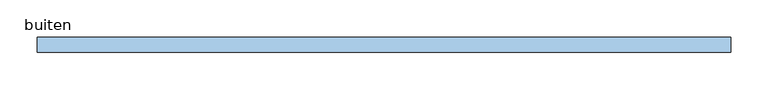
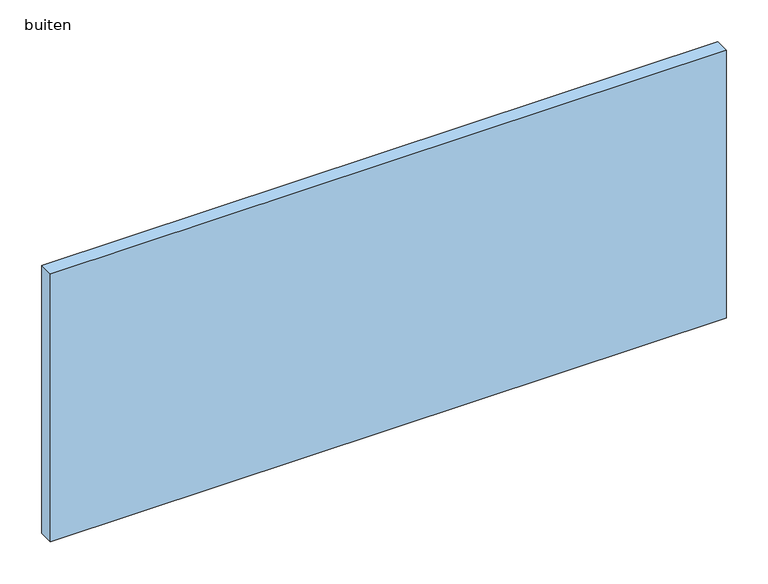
"""IFC4 building model written with IfcOpenShell, lengths in millimetres: window geometry, RBS_3-_WI_pui_glas_SH : buiten."""

from ifc_helpers import new_model, si_unit, origin, origin_with_axes, place, context, project, spatial, polyline, outline, extrude, source, transform, mapped, element, save


def buiten_5ce3c921(model_context):
    return source(origin(), model_context, "Body", "SweptSolid", [
        extrude(outline(polyline([(465.0, -10.0), (-465.0, -10.0), (-465.0, 10.0), (465.0, 10.0), (465.0, -10.0)])), origin_with_axes(), (0.0, 0.0, 1.0), 390.0),
    ])


if __name__ == "__main__":
    model = new_model("IFC4")
    model_context = context("Model", 3, world=origin())
    ifc_project = project(units=[si_unit("LENGTHUNIT", "METRE", prefix="MILLI")], contexts=[model_context])
    site = spatial("IfcSite", under=ifc_project)
    building = spatial("IfcBuilding", under=site)
    placement = place(None, origin())
    buiten_shape = buiten_5ce3c921(model_context)
    element("IfcWindow", 1, ObjectType="RBS_3-_WI_pui_glas_SH : buiten", at=placement, inside=building, context=model_context, shape_type="MappedRepresentation", body=[
        mapped(buiten_shape, transform((0.0, 0.0, 0.0), x_axis=(1.0, 0.0, 0.0), y_axis=(0.0, 1.0, 0.0), z_axis=(0.0, 0.0, 1.0))),
    ])
    save(model, "model.ifc")
